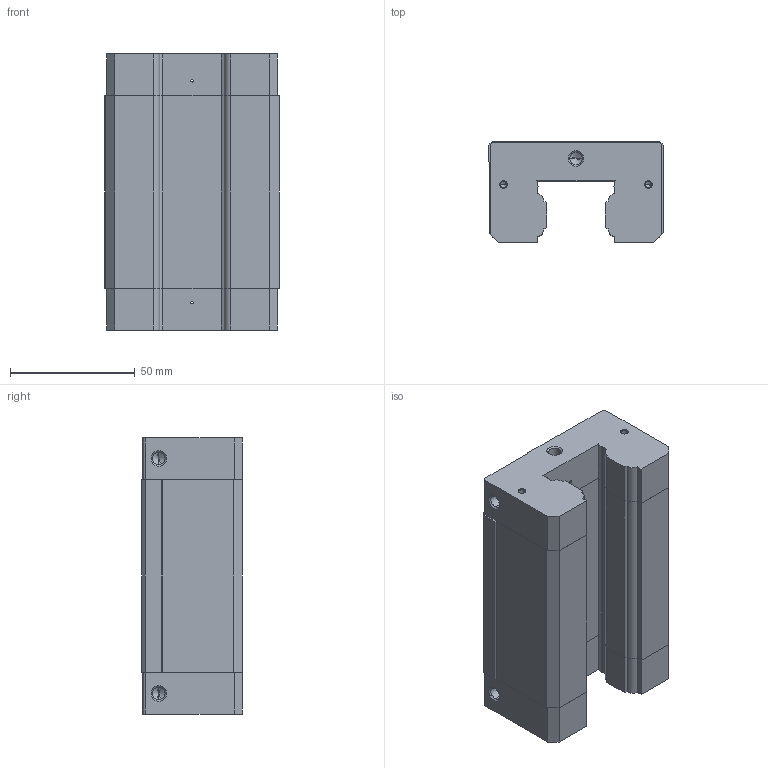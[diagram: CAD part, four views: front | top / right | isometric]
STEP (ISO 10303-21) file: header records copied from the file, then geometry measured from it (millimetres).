
FILE_DESCRIPTION (( 'STEP AP214' ), '1' );
FILE_NAME ('RUSIZE_01101457234708.step', '2008-01-10T19:57:32', ( 'SysAdmin' ), ( 'SolidWorks' ), 'SwSTEP 2.0', 'SolidWorks 2008', '' );
FILE_SCHEMA (( 'AUTOMOTIVE_DESIGN' ));
Length unit declared in the file: millimetre
Products named in the file (1): RUSIZE_01101457234708
Bounding box: 70 x 40.4 x 110.5 mm (x, y, z)
Volume: 230493.1 mm3; surface area: 44897.9 mm2
Topology: 3 solids, 3 shells, 194 faces, 502 edges, 302 vertices
Faces by surface type: plane 86, cone 56, cylinder 52
Entity records: 7034 total; most frequent: DIRECTION 996, CARTESIAN_POINT 971, ORIENTED_EDGE 948, EDGE_CURVE 474, VECTOR 342, LINE 342, AXIS2_PLACEMENT_3D 327, VERTEX_POINT 302
